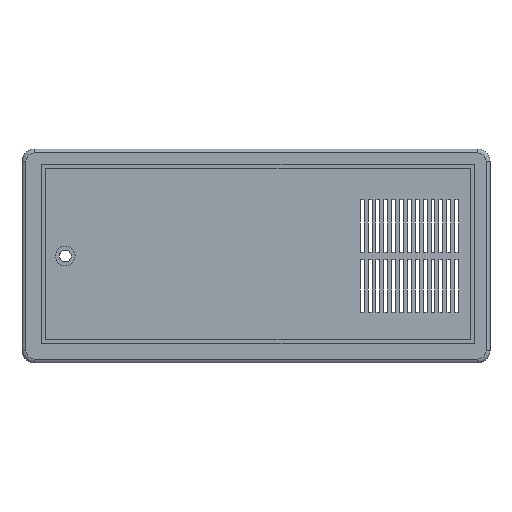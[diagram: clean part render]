
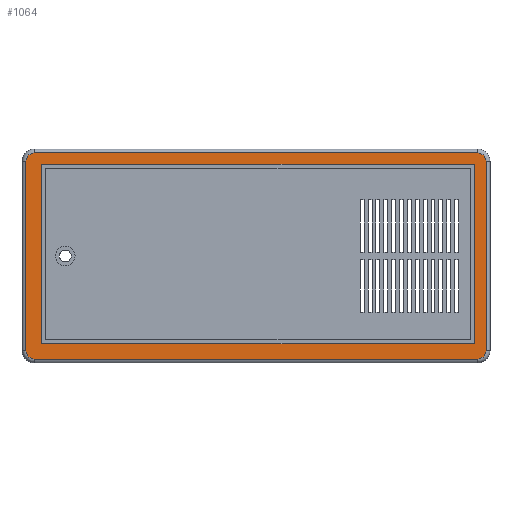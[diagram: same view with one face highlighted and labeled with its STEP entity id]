
A CAD part, front view. The second image highlights one B-rep face of the part: STEP entity #1064.
In plain terms, the highlighted planar face has unit normal (0, -1, 0).
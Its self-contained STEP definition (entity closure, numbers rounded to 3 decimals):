
#4 = DIRECTION ( 'NONE',  ( -1., 0., 0. ) ) ;
#37 = LINE ( 'NONE', #3536, #5199 ) ;
#239 = AXIS2_PLACEMENT_3D ( 'NONE', #1447, #4310, #4750 ) ;
#259 = EDGE_CURVE ( 'NONE', #4997, #4670, #2609, .T. ) ;
#315 = VERTEX_POINT ( 'NONE', #2919 ) ;
#362 = VERTEX_POINT ( 'NONE', #2167 ) ;
#389 = CARTESIAN_POINT ( 'NONE',  ( 0., 0., -26.195 ) ) ;
#528 = DIRECTION ( 'NONE',  ( 0., 0., 1. ) ) ;
#547 = EDGE_CURVE ( 'NONE', #1473, #362, #5210, .T. ) ;
#566 = DIRECTION ( 'NONE',  ( 0., -1., 0. ) ) ;
#574 = CARTESIAN_POINT ( 'NONE',  ( 56.35, 0., 24.045 ) ) ;
#716 = AXIS2_PLACEMENT_3D ( 'NONE', #3054, #566, #1977 ) ;
#794 = DIRECTION ( 'NONE',  ( 0., -1., 0. ) ) ;
#807 = VECTOR ( 'NONE', #3522, 1000. ) ;
#850 = ORIENTED_EDGE ( 'NONE', *, *, #5010, .T. ) ;
#883 = CARTESIAN_POINT ( 'NONE',  ( 0., 0., 26.195 ) ) ;
#932 = CIRCLE ( 'NONE', #716, 2.15 ) ;
#1016 = DIRECTION ( 'NONE',  ( 0., 0., -1. ) ) ;
#1064 = ADVANCED_FACE ( 'NONE', ( #3758, #1568 ), #4230, .F. ) ;
#1096 = CARTESIAN_POINT ( 'NONE',  ( -54.5, 0., 23.305 ) ) ;
#1116 = EDGE_CURVE ( 'NONE', #1517, #315, #3378, .T. ) ;
#1299 = CARTESIAN_POINT ( 'NONE',  ( 58.5, 0., 0. ) ) ;
#1327 = DIRECTION ( 'NONE',  ( 0., 0., 1. ) ) ;
#1355 = EDGE_LOOP ( 'NONE', ( #4293, #2328, #2566, #2829, #850, #2420, #1693, #3177 ) ) ;
#1356 = CIRCLE ( 'NONE', #4606, 2.15 ) ;
#1407 = AXIS2_PLACEMENT_3D ( 'NONE', #4870, #4038, #4016 ) ;
#1440 = DIRECTION ( 'NONE',  ( -1., 0., 0. ) ) ;
#1447 = CARTESIAN_POINT ( 'NONE',  ( -56.35, 0., -24.045 ) ) ;
#1473 = VERTEX_POINT ( 'NONE', #1916 ) ;
#1517 = VERTEX_POINT ( 'NONE', #3660 ) ;
#1568 = FACE_OUTER_BOUND ( 'NONE', #1355, .T. ) ;
#1646 = CARTESIAN_POINT ( 'NONE',  ( 55.5, 0., 23.305 ) ) ;
#1668 = EDGE_CURVE ( 'NONE', #3478, #2429, #1356, .T. ) ;
#1693 = ORIENTED_EDGE ( 'NONE', *, *, #3834, .T. ) ;
#1789 = CARTESIAN_POINT ( 'NONE',  ( -56.35, 0., 26.195 ) ) ;
#1796 = EDGE_CURVE ( 'NONE', #362, #2463, #3036, .T. ) ;
#1837 = CARTESIAN_POINT ( 'NONE',  ( -54.5, 0., -22.295 ) ) ;
#1878 = VERTEX_POINT ( 'NONE', #2176 ) ;
#1916 = CARTESIAN_POINT ( 'NONE',  ( 58.5, 0., -24.045 ) ) ;
#1977 = DIRECTION ( 'NONE',  ( 0., 0., 1. ) ) ;
#2113 = DIRECTION ( 'NONE',  ( 0., 0., 1. ) ) ;
#2167 = CARTESIAN_POINT ( 'NONE',  ( 58.5, 0., 24.045 ) ) ;
#2176 = CARTESIAN_POINT ( 'NONE',  ( -54.5, 0., 23.305 ) ) ;
#2239 = CARTESIAN_POINT ( 'NONE',  ( -54.5, 0., 23.305 ) ) ;
#2275 = EDGE_CURVE ( 'NONE', #1878, #4997, #4688, .T. ) ;
#2309 = EDGE_LOOP ( 'NONE', ( #5077, #5060, #3568, #3808 ) ) ;
#2328 = ORIENTED_EDGE ( 'NONE', *, *, #4019, .T. ) ;
#2373 = VECTOR ( 'NONE', #1016, 1000. ) ;
#2420 = ORIENTED_EDGE ( 'NONE', *, *, #1668, .T. ) ;
#2429 = VERTEX_POINT ( 'NONE', #4676 ) ;
#2463 = VERTEX_POINT ( 'NONE', #4575 ) ;
#2566 = ORIENTED_EDGE ( 'NONE', *, *, #547, .T. ) ;
#2605 = DIRECTION ( 'NONE',  ( 1., 0., 0. ) ) ;
#2609 = LINE ( 'NONE', #2619, #2739 ) ;
#2619 = CARTESIAN_POINT ( 'NONE',  ( -54.5, 0., -22.295 ) ) ;
#2621 = CARTESIAN_POINT ( 'NONE',  ( 56.35, 0., -26.195 ) ) ;
#2720 = LINE ( 'NONE', #2239, #4766 ) ;
#2739 = VECTOR ( 'NONE', #2605, 1000. ) ;
#2743 = AXIS2_PLACEMENT_3D ( 'NONE', #574, #794, #528 ) ;
#2829 = ORIENTED_EDGE ( 'NONE', *, *, #1796, .T. ) ;
#2858 = LINE ( 'NONE', #883, #3819 ) ;
#2911 = VECTOR ( 'NONE', #3419, 1000. ) ;
#2919 = CARTESIAN_POINT ( 'NONE',  ( -56.35, 0., -26.195 ) ) ;
#3000 = CARTESIAN_POINT ( 'NONE',  ( 55.5, 0., -22.295 ) ) ;
#3036 = CIRCLE ( 'NONE', #2743, 2.15 ) ;
#3039 = VERTEX_POINT ( 'NONE', #1646 ) ;
#3054 = CARTESIAN_POINT ( 'NONE',  ( 56.35, 0., -24.045 ) ) ;
#3177 = ORIENTED_EDGE ( 'NONE', *, *, #1116, .T. ) ;
#3378 = CIRCLE ( 'NONE', #239, 2.15 ) ;
#3419 = DIRECTION ( 'NONE',  ( 0., 0., -1. ) ) ;
#3478 = VERTEX_POINT ( 'NONE', #1789 ) ;
#3522 = DIRECTION ( 'NONE',  ( 1., 0., 0. ) ) ;
#3536 = CARTESIAN_POINT ( 'NONE',  ( 55.5, 0., 23.305 ) ) ;
#3568 = ORIENTED_EDGE ( 'NONE', *, *, #3681, .F. ) ;
#3660 = CARTESIAN_POINT ( 'NONE',  ( -58.5, 0., -24.045 ) ) ;
#3681 = EDGE_CURVE ( 'NONE', #3039, #1878, #2720, .T. ) ;
#3758 = FACE_BOUND ( 'NONE', #2309, .T. ) ;
#3808 = ORIENTED_EDGE ( 'NONE', *, *, #5127, .F. ) ;
#3819 = VECTOR ( 'NONE', #1440, 1000. ) ;
#3834 = EDGE_CURVE ( 'NONE', #2429, #1517, #4142, .T. ) ;
#3907 = CARTESIAN_POINT ( 'NONE',  ( -58.5, 0., 0. ) ) ;
#4016 = DIRECTION ( 'NONE',  ( 0., 0., 1. ) ) ;
#4019 = EDGE_CURVE ( 'NONE', #5142, #1473, #932, .T. ) ;
#4038 = DIRECTION ( 'NONE',  ( 0., 1., 0. ) ) ;
#4041 = EDGE_CURVE ( 'NONE', #315, #5142, #4074, .T. ) ;
#4074 = LINE ( 'NONE', #389, #807 ) ;
#4142 = LINE ( 'NONE', #3907, #2911 ) ;
#4230 = PLANE ( 'NONE',  #1407 ) ;
#4293 = ORIENTED_EDGE ( 'NONE', *, *, #4041, .T. ) ;
#4310 = DIRECTION ( 'NONE',  ( 0., -1., 0. ) ) ;
#4418 = DIRECTION ( 'NONE',  ( 0., -1., 0. ) ) ;
#4575 = CARTESIAN_POINT ( 'NONE',  ( 56.35, 0., 26.195 ) ) ;
#4593 = DIRECTION ( 'NONE',  ( 0., 0., 1. ) ) ;
#4606 = AXIS2_PLACEMENT_3D ( 'NONE', #5048, #4418, #2113 ) ;
#4670 = VERTEX_POINT ( 'NONE', #3000 ) ;
#4676 = CARTESIAN_POINT ( 'NONE',  ( -58.5, 0., 24.045 ) ) ;
#4688 = LINE ( 'NONE', #1096, #2373 ) ;
#4750 = DIRECTION ( 'NONE',  ( 0., 0., 1. ) ) ;
#4766 = VECTOR ( 'NONE', #4, 1000. ) ;
#4870 = CARTESIAN_POINT ( 'NONE',  ( 0., 0., 0. ) ) ;
#4997 = VERTEX_POINT ( 'NONE', #1837 ) ;
#5010 = EDGE_CURVE ( 'NONE', #2463, #3478, #2858, .T. ) ;
#5048 = CARTESIAN_POINT ( 'NONE',  ( -56.35, 0., 24.045 ) ) ;
#5060 = ORIENTED_EDGE ( 'NONE', *, *, #2275, .F. ) ;
#5077 = ORIENTED_EDGE ( 'NONE', *, *, #259, .F. ) ;
#5093 = VECTOR ( 'NONE', #1327, 1000. ) ;
#5127 = EDGE_CURVE ( 'NONE', #4670, #3039, #37, .T. ) ;
#5142 = VERTEX_POINT ( 'NONE', #2621 ) ;
#5199 = VECTOR ( 'NONE', #4593, 1000. ) ;
#5210 = LINE ( 'NONE', #1299, #5093 ) ;
